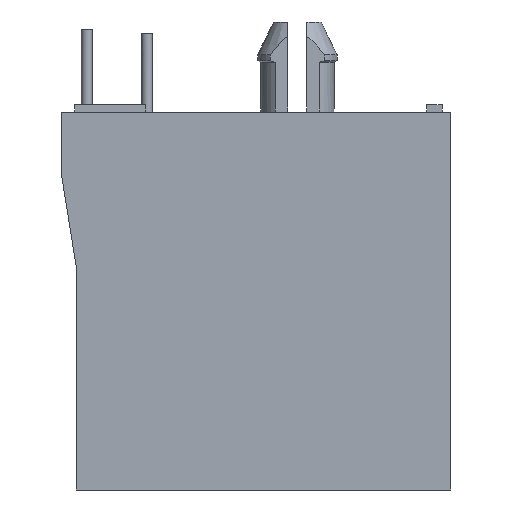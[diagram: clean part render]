
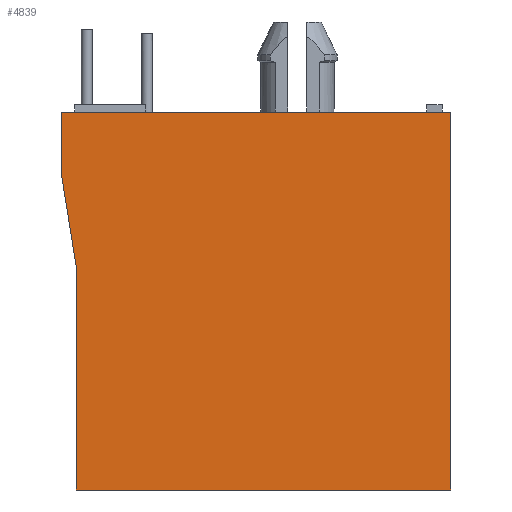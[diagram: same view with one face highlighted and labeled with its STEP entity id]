
A CAD part, left-side view. The second image highlights one B-rep face of the part: STEP entity #4839.
In plain terms, the highlighted planar face has unit normal (-1, 0, 0).
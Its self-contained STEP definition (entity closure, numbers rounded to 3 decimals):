
#1=DIRECTION('',(0.,0.158,0.988));
#2=VECTOR('',#1,3.998);
#3=CARTESIAN_POINT('',(-5.75,7.95,1.412));
#4=LINE('',#3,#2);
#5=DIRECTION('',(0.,1.,0.));
#6=VECTOR('',#5,15.82);
#7=CARTESIAN_POINT('',(-5.75,-7.87,-8.05));
#8=LINE('',#7,#6);
#9=DIRECTION('',(0.,0.,-1.));
#10=VECTOR('',#9,9.462);
#11=CARTESIAN_POINT('',(-5.75,7.95,1.412));
#12=LINE('',#11,#10);
#324=DIRECTION('',(0.,1.,0.));
#325=VECTOR('',#324,16.45);
#326=CARTESIAN_POINT('',(-5.75,-7.87,7.9));
#327=LINE('',#326,#325);
#872=DIRECTION('',(0.,0.,-1.));
#873=VECTOR('',#872,2.54);
#874=CARTESIAN_POINT('',(-5.75,8.58,7.9));
#875=LINE('',#874,#873);
#2931=DIRECTION('',(0.,0.,1.));
#2932=VECTOR('',#2931,15.95);
#2933=CARTESIAN_POINT('',(-5.75,-7.87,-8.05));
#2934=LINE('',#2933,#2932);
#3711=CARTESIAN_POINT('',(-5.75,7.95,1.412));
#3712=CARTESIAN_POINT('',(-5.75,8.58,5.36));
#3713=VERTEX_POINT('',#3711);
#3714=VERTEX_POINT('',#3712);
#3715=CARTESIAN_POINT('',(-5.75,-7.87,-8.05));
#3716=CARTESIAN_POINT('',(-5.75,7.95,-8.05));
#3717=VERTEX_POINT('',#3715);
#3718=VERTEX_POINT('',#3716);
#3793=CARTESIAN_POINT('',(-5.75,-7.87,7.9));
#3794=CARTESIAN_POINT('',(-5.75,8.58,7.9));
#3795=VERTEX_POINT('',#3793);
#3796=VERTEX_POINT('',#3794);
#4821=CARTESIAN_POINT('',(-5.75,0.355,-0.075));
#4822=DIRECTION('',(1.,0.,0.));
#4823=DIRECTION('',(0.,-1.,0.));
#4824=AXIS2_PLACEMENT_3D('',#4821,#4822,#4823);
#4825=PLANE('',#4824);
#4827=ORIENTED_EDGE('',*,*,#4826,.F.);
#4829=ORIENTED_EDGE('',*,*,#4828,.T.);
#4831=ORIENTED_EDGE('',*,*,#4830,.F.);
#4833=ORIENTED_EDGE('',*,*,#4832,.F.);
#4835=ORIENTED_EDGE('',*,*,#4834,.F.);
#4836=ORIENTED_EDGE('',*,*,#4760,.T.);
#4837=EDGE_LOOP('',(#4827,#4829,#4831,#4833,#4835,#4836));
#4838=FACE_OUTER_BOUND('',#4837,.F.);
#4839=ADVANCED_FACE('',(#4838),#4825,.F.);
#4760=EDGE_CURVE('',#3717,#3718,#8,.T.);
#4826=EDGE_CURVE('',#3713,#3718,#12,.T.);
#4828=EDGE_CURVE('',#3713,#3714,#4,.T.);
#4830=EDGE_CURVE('',#3796,#3714,#875,.T.);
#4832=EDGE_CURVE('',#3795,#3796,#327,.T.);
#4834=EDGE_CURVE('',#3717,#3795,#2934,.T.);
